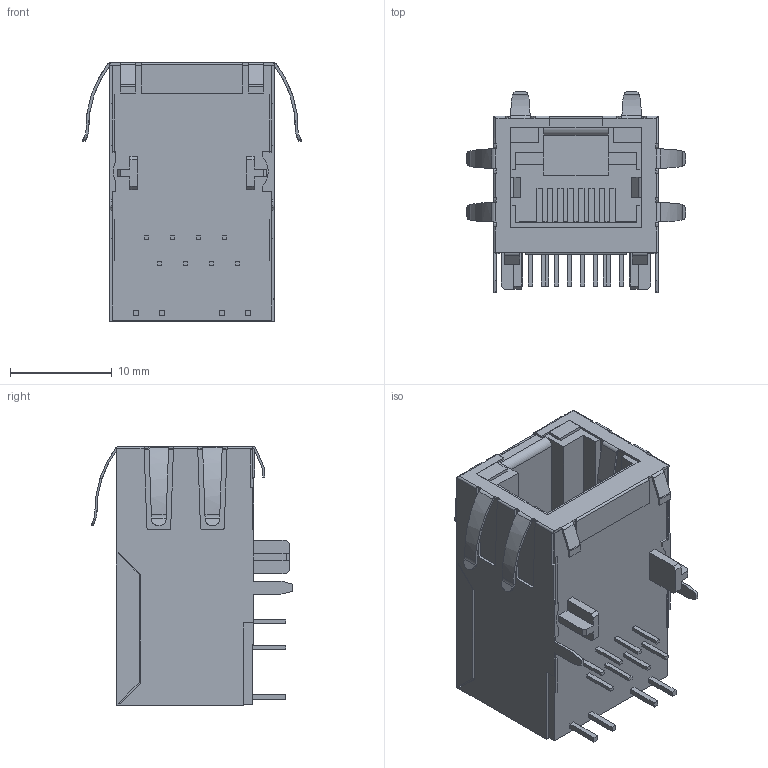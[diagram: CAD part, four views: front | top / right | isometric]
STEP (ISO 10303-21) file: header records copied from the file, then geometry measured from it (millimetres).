
FILE_DESCRIPTION (( 'STEP AP214' ), '1' );
FILE_NAME ('J1011F21PNL_3D.STEP', '2017-06-29T08:48:28', ( '' ), ( '' ), 'SwSTEP 2.0', 'SolidWorks 2015', '' );
FILE_SCHEMA (( 'AUTOMOTIVE_DESIGN' ));
Length unit declared in the file: millimetre
Products named in the file (1): J1011F21PNL_3D
Bounding box: 21.51 x 19.75 x 25.4 mm (x, y, z)
Volume: 4230.5 mm3; surface area: 5475.8 mm2
Topology: 2 solids, 2 shells, 467 faces, 1353 edges, 890 vertices
Faces by surface type: plane 366, cylinder 101
Entity records: 19888 total; most frequent: CARTESIAN_POINT 3101, ORIENTED_EDGE 2706, DIRECTION 2247, EDGE_CURVE 1353, LINE 1147, VECTOR 1147, VERTEX_POINT 890, AXIS2_PLACEMENT_3D 550
